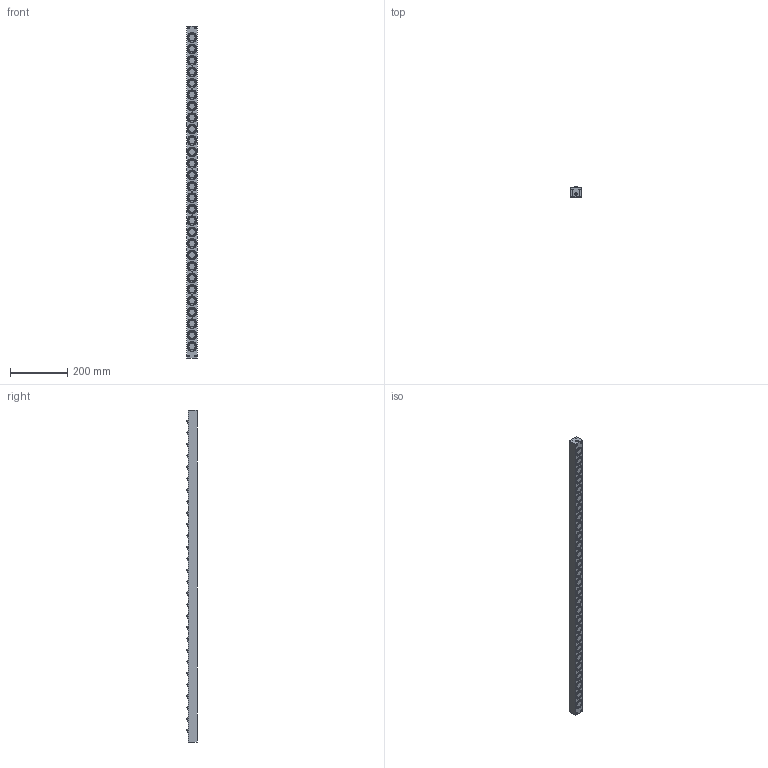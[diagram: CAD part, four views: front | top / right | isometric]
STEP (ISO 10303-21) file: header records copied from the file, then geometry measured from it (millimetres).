
FILE_DESCRIPTION (( 'STEP AP203' ), '1' );
FILE_NAME ('PVL30S-28.STEP', '2016-02-18T05:28:48', ( '' ), ( '' ), 'SwSTEP 2.0', 'SolidWorks 2013', '' );
FILE_SCHEMA (( 'CONFIG_CONTROL_DESIGN' ));
Length unit declared in the file: millimetre
Products named in the file (1): PVL30S-28
Bounding box: 38 x 36 x 1160 mm (x, y, z)
Volume: 1346955.6 mm3; surface area: 207719.8 mm2
Topology: 1 solids, 1 shells, 901 faces, 2120 edges, 1421 vertices
Faces by surface type: cylinder 578, plane 263, sphere 56, cone 4
Entity records: 26709 total; most frequent: DIRECTION 5250, CARTESIAN_POINT 4441, ORIENTED_EDGE 4236, AXIS2_PLACEMENT_3D 2230, EDGE_CURVE 2118, VERTEX_POINT 1421, CIRCLE 1328, EDGE_LOOP 1111
